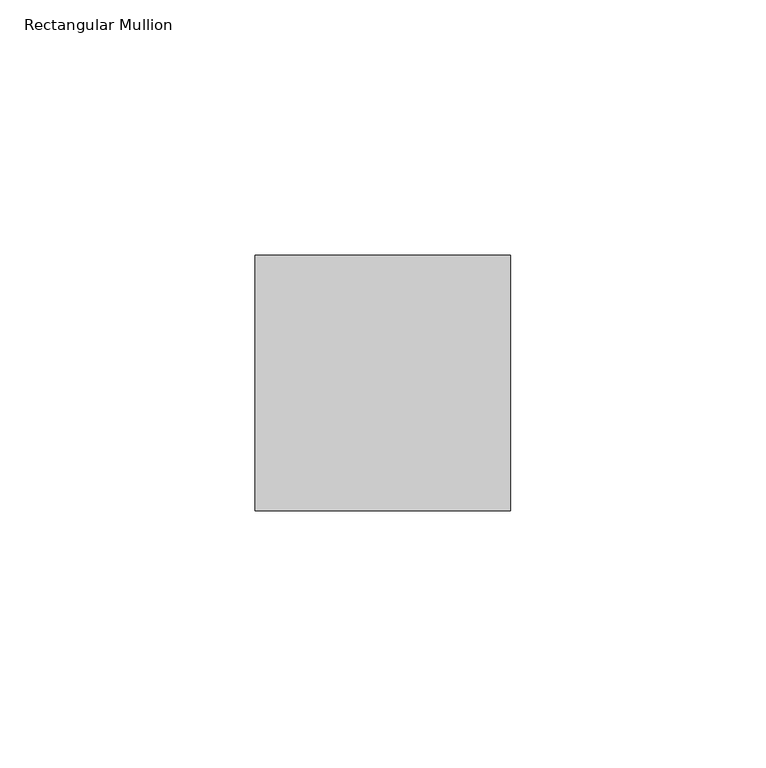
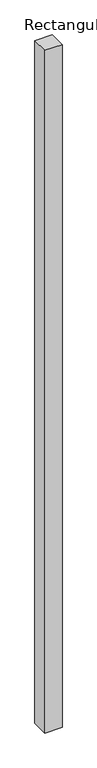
"""IFC4 building model written with IfcOpenShell, lengths in millimetres: member geometry, Rectangular Mullion : Mullion_Curtain Wall_Generic Showcase_50x50mm."""

from ifc_helpers import new_model, si_unit, frame, origin, place, context, project, spatial, polyline, outline, extrude, source, transform, mapped, element, save


def rectangular_mullion_82dbb10d(model_context):
    return source(origin(), model_context, "Body", "SweptSolid", [
        extrude(outline(polyline([(25.0, 0.0), (25.0, -50.0), (-25.0, -50.0), (-25.0, 0.0), (25.0, 0.0)])), frame((0.0, 0.0, -2096.0060738), z_axis=(0.0, 0.0, 1.0), x_axis=(1.0, 0.0, 0.0)), (0.0, 0.0, 1.0), 2096.0060738),
    ])


if __name__ == "__main__":
    model = new_model("IFC4")
    model_context = context("Model", 3, world=origin())
    ifc_project = project(units=[si_unit("LENGTHUNIT", "METRE", prefix="MILLI")], contexts=[model_context])
    site = spatial("IfcSite", under=ifc_project)
    building = spatial("IfcBuilding", under=site)
    placement = place(None, origin())
    rectangular_mullion_shape = rectangular_mullion_82dbb10d(model_context)
    element("IfcMember", 1, ObjectType="Rectangular Mullion : Mullion_Curtain Wall_Generic Showcase_50x50mm", at=placement, inside=building, context=model_context, shape_type="MappedRepresentation", body=[
        mapped(rectangular_mullion_shape, transform((0.0, 0.0, 0.0), x_axis=(1.0, 0.0, 0.0), y_axis=(0.0, 1.0, 0.0), z_axis=(0.0, 0.0, 1.0))),
    ])
    save(model, "model.ifc")
